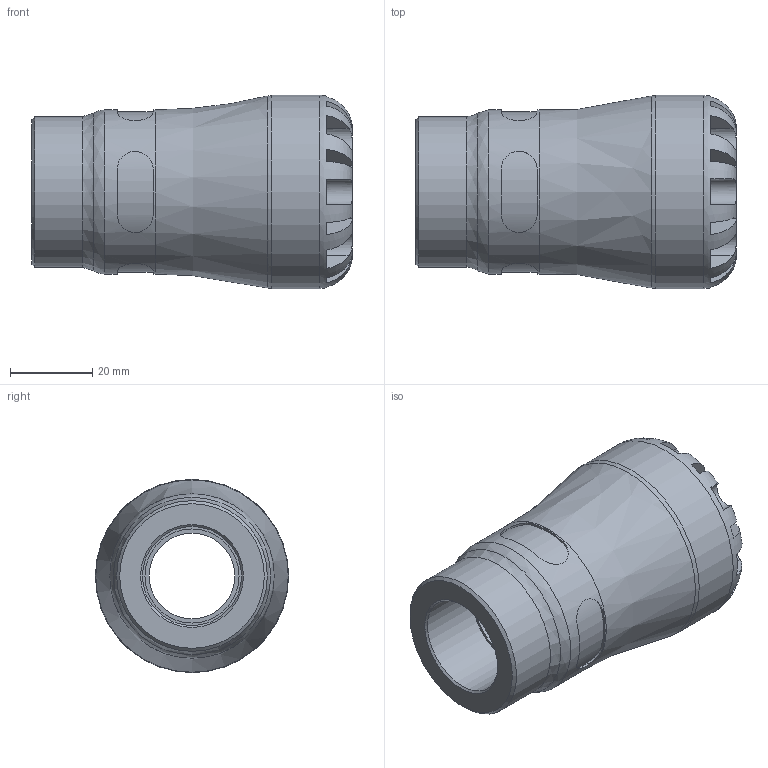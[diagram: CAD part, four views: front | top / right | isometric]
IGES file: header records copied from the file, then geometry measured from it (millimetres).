
Global section: file name: 107300025007_197300025007.ipt; native system: Autodesk Inventor 2015; preprocessor: unknown; author: KIM; date: 20170122.113600; units: millimetre
Bounding box: 78 x 47 x 47 mm (x, y, z)
Volume: 68132.5 mm3; surface area: 19072.4 mm2
Topology: 1 solids, 1 shells, 104 faces, 270 edges, 174 vertices
Faces by surface type: plane 61, revolution 27, cylinder 15, cone 1
Full cylindrical faces by diameter (mm): 36.66 x1, 39.95 x1, 47 x1
